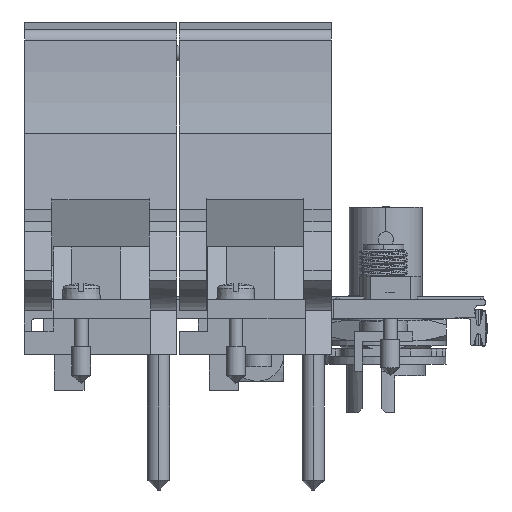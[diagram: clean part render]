
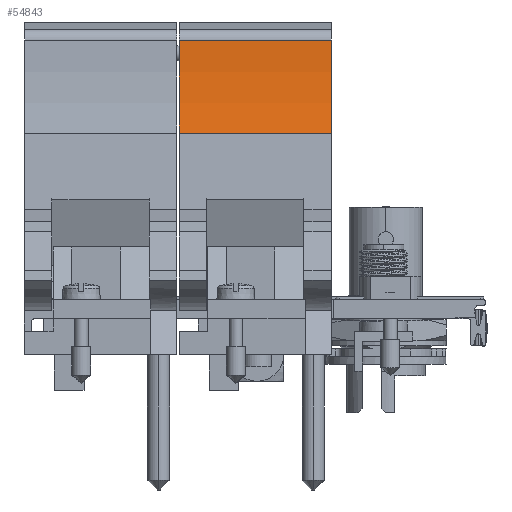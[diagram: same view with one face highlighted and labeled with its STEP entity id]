
A CAD part, front view. The second image highlights one B-rep face of the part: STEP entity #54843.
In plain terms, the highlighted cylindrical face has radius 51.46 mm (diameter 102.919 mm), a partial arc.
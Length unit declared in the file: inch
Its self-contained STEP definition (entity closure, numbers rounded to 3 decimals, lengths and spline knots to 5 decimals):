
#12337=CARTESIAN_POINT('',(0.646,-2.51633,1.70378));
#12338=DIRECTION('',(-1.,0.,0.));
#12339=DIRECTION('',(0.,1.,-0.012));
#12340=AXIS2_PLACEMENT_3D('',#12337,#12338,#12339);
#12643=CARTESIAN_POINT('',(1.434,-2.51633,1.70378));
#12644=DIRECTION('',(-1.,0.,0.));
#12645=DIRECTION('',(0.,1.,-0.012));
#12646=AXIS2_PLACEMENT_3D('',#12643,#12644,#12645);
#13364=DIRECTION('',(-1.,0.,0.));
#13365=VECTOR('',#13364,0.788);
#13366=CARTESIAN_POINT('',(1.434,-0.49051,1.67953));
#13367=LINE('',#13366,#13365);
#13368=DIRECTION('',(1.,0.,0.));
#13369=VECTOR('',#13368,0.788);
#13370=CARTESIAN_POINT('',(0.646,-0.55351,1.2019));
#13371=LINE('',#13370,#13369);
#35186=CARTESIAN_POINT('',(0.646,-0.55351,1.2019));
#35187=VERTEX_POINT('',#35186);
#35188=CARTESIAN_POINT('',(0.646,-0.49051,1.67953));
#35189=VERTEX_POINT('',#35188);
#35296=CARTESIAN_POINT('',(1.434,-0.55351,1.2019));
#35297=VERTEX_POINT('',#35296);
#35302=CARTESIAN_POINT('',(1.434,-0.49051,1.67953));
#35303=VERTEX_POINT('',#35302);
#54831=CARTESIAN_POINT('',(0.63024,-2.51633,1.70378));
#54832=DIRECTION('',(1.,0.,0.));
#54833=DIRECTION('',(0.,0.98,0.198));
#54834=AXIS2_PLACEMENT_3D('',#54831,#54832,#54833);
#54835=CYLINDRICAL_SURFACE('',#54834,2.02597);
#54836=ORIENTED_EDGE('',*,*,#54826,.F.);
#54837=ORIENTED_EDGE('',*,*,#53902,.T.);
#54839=ORIENTED_EDGE('',*,*,#54838,.F.);
#54840=ORIENTED_EDGE('',*,*,#53676,.F.);
#54841=EDGE_LOOP('',(#54836,#54837,#54839,#54840));
#54842=FACE_OUTER_BOUND('',#54841,.F.);
#54843=ADVANCED_FACE('',(#54842),#54835,.F.);
#12341=CIRCLE('',#12340,2.02597);
#12647=CIRCLE('',#12646,2.02597);
#53676=EDGE_CURVE('',#35189,#35187,#12341,.T.);
#53902=EDGE_CURVE('',#35303,#35297,#12647,.T.);
#54826=EDGE_CURVE('',#35303,#35189,#13367,.T.);
#54838=EDGE_CURVE('',#35187,#35297,#13371,.T.);
